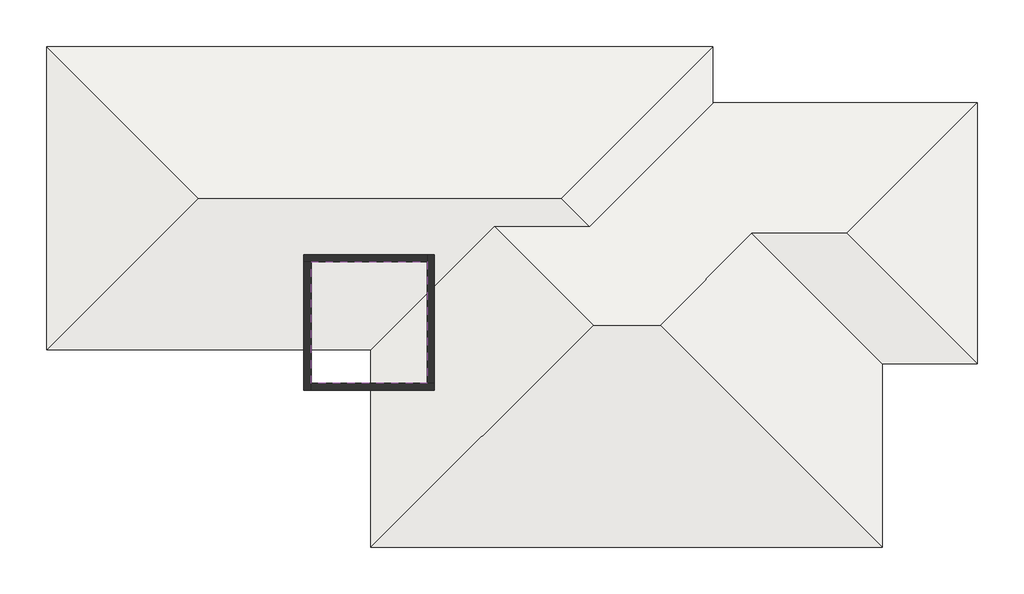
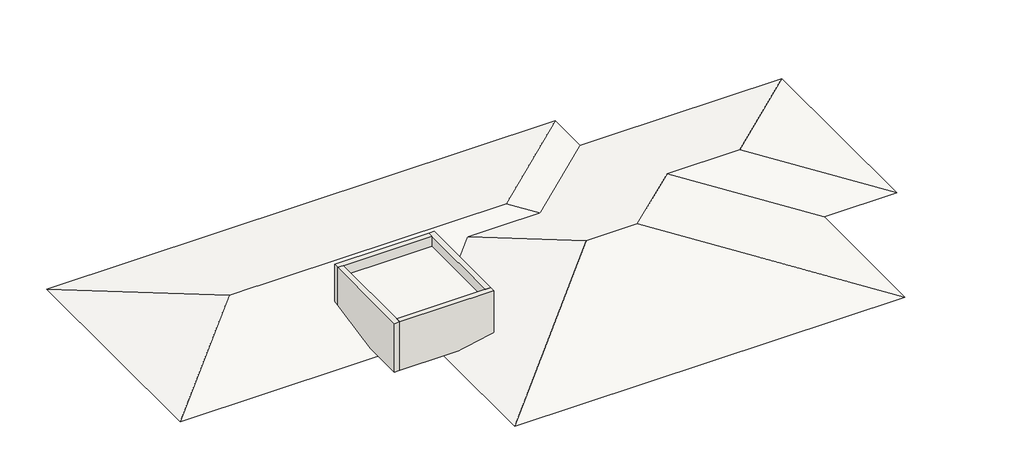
# One storey: 4 walls, 2 roofs, 1 slab.
"""IFC4 building model written with IfcOpenShell, lengths in millimetres."""

from ifc_helpers import new_model, si_unit, frame, origin, place, context, project, spatial, polyline, outline, extrude, faceted_brep, element, save

model = new_model("IFC4")

# Units and contexts
model_context = context("Model", 3, world=origin())
ifc_project = project(units=[si_unit("LENGTHUNIT", "METRE", prefix="MILLI")], contexts=[model_context])

# Site, building, storey
site = spatial("IfcSite", under=ifc_project)
building = spatial("IfcBuilding", under=site)
storey = spatial("IfcBuildingStorey", under=building, Name="屋面", Elevation=8100.0)

# Roofs
placement = place(None, origin())
element("IfcRoof", 1, ObjectType="常规 - 200mm", at=placement, inside=storey, context=model_context, shape_type="Brep", body=[
    faceted_brep([(8189.2485277, 1658.7788742, 8000.0), (4909.0524305, -1621.4172231, 8656.0392195), (-5390.9475695, -1621.4172231, 8656.0392195), (-8671.1436668, 1658.7788742, 8000.0), (8189.2485277, -4901.6133204, 8000.0), (-8671.1436668, -4901.6133204, 8000.0), (9209.0524305, 2678.5827769, 8000.0), (-9690.9475695, 2678.5827769, 8000.0), (-5390.9475695, -1621.4172231, 8860.0), (4909.0524305, -1621.4172231, 8860.0), (9209.0524305, -5921.4172231, 8000.0), (-9690.9475695, -5921.4172231, 8000.0)], [[[0, 1, 2, 3]], [[1, 0, 4]], [[3, 2, 5]], [[5, 2, 1, 4]], [[6, 7, 8, 9]], [[6, 9, 10]], [[7, 11, 8]], [[11, 10, 9, 8]], [[6, 10, 11, 7], [0, 3, 5, 4]]]),
])
element("IfcRoof", 2, ObjectType="常规 - 200mm", at=placement, inside=storey, context=model_context, shape_type="Brep", body=[
    faceted_brep([(5809.0524305, -5221.4172231, 9056.0391714), (528.8503238, -10501.6193298, 7999.9922781), (528.8503238, 58.7848836, 7999.9922781), (7709.0524305, -5221.4172231, 9056.0391714), (12989.2545372, -10501.6193298, 7999.9922781), (10309.0524305, -2621.4172231, 8536.0359846), (12989.2545372, -5301.6193298, 7999.9922781), (15689.2545372, -5301.6193298, 7999.9922781), (13009.0524305, -2621.4172231, 8536.0359846), (15689.2545372, 58.7848836, 7999.9922781), (-490.9475695, -11521.4172231, 7999.9922781), (5809.0524305, -5221.4172231, 9260.0), (-490.9475695, 1078.5827769, 7999.9922781), (14009.0524305, -11521.4172231, 7999.9922781), (7709.0524305, -5221.4172231, 9260.0), (14009.0524305, -6321.4172231, 7999.9922781), (10309.0524305, -2621.4172231, 8739.9968132), (16709.0524305, -6321.4172231, 7999.9922781), (13009.0524305, -2621.4172231, 8739.9968132), (16709.0524305, 1078.5827769, 7999.9922781)], [[[0, 1, 2]], [[1, 0, 3, 4]], [[4, 3, 5, 6]], [[7, 6, 5, 8]], [[7, 8, 9]], [[9, 8, 5, 3, 0, 2]], [[10, 11, 12]], [[10, 13, 14, 11]], [[13, 15, 16, 14]], [[15, 17, 18, 16]], [[17, 19, 18]], [[19, 12, 11, 14, 16, 18]], [[10, 12, 19, 17, 15, 13], [1, 4, 6, 7, 9, 2]]]),
])

# Slab
element("IfcSlab", 3, ObjectType="楼板", at=placement, inside=storey, context=model_context, shape_type="SweptSolid", body=[
    extrude(outline(polyline([(1109.0524305, -3421.4172231), (1109.0524305, -6871.4172231), (-2190.9475695, -6871.4172231), (-2190.9475695, -3421.4172231), (1109.0524305, -3421.4172231)])), frame((0.0, 0.0, 9450.0), z_axis=(0.0, 0.0, 1.0), x_axis=(1.0, 0.0, 0.0)), (0.0, 0.0, 1.0), 150.0),
])

# Walls
element("IfcWall", 4, ObjectType="外墙", at=placement, inside=storey, context=model_context, shape_type="Brep", body=[
    faceted_brep([(-2390.9475695, -3421.4172231, 8100.0), (-2190.9475695, -3421.4172231, 8100.0), (1109.0524305, -3421.4172231, 8100.0), (1109.0524305, -3421.4172231, 10000.0), (-2190.9475695, -3421.4172231, 10000.0), (-2390.9475695, -3421.4172231, 10000.0), (-2390.9475695, -3221.4172231, 8100.0), (-2390.9475695, -3221.4172231, 10000.0), (1109.0524305, -3221.4172231, 10000.0), (1109.0524305, -3221.4172231, 8100.0)], [[[0, 1, 2, 3, 4, 5]], [[6, 7, 8, 9]], [[2, 1, 0, 6, 9]], [[5, 4, 3, 8, 7]], [[0, 5, 7, 6]], [[3, 2, 9, 8]]]),
])
element("IfcWall", 5, ObjectType="外墙", at=placement, inside=storey, context=model_context, shape_type="Brep", body=[
    faceted_brep([(-2190.9475695, -7071.4172231, 8100.0), (-2190.9475695, -6871.4172231, 8100.0), (-2190.9475695, -3421.4172231, 8100.0), (-2190.9475695, -3421.4172231, 10000.0), (-2190.9475695, -6871.4172231, 10000.0), (-2190.9475695, -7071.4172231, 10000.0), (-2390.9475695, -7071.4172231, 8100.0), (-2390.9475695, -7071.4172231, 10000.0), (-2390.9475695, -3421.4172231, 10000.0), (-2390.9475695, -3421.4172231, 8100.0)], [[[0, 1, 2, 3, 4, 5]], [[6, 7, 8, 9]], [[2, 1, 0, 6, 9]], [[5, 4, 3, 8, 7]], [[0, 5, 7, 6]], [[3, 2, 9, 8]]]),
])
element("IfcWall", 6, ObjectType="外墙", at=placement, inside=storey, context=model_context, shape_type="Brep", body=[
    faceted_brep([(1309.0524305, -6871.4172231, 8100.0), (1109.0524305, -6871.4172231, 8100.0), (-2190.9475695, -6871.4172231, 8100.0), (-2190.9475695, -6871.4172231, 10000.0), (1109.0524305, -6871.4172231, 10000.0), (1309.0524305, -6871.4172231, 10000.0), (1309.0524305, -7071.4172231, 8100.0), (1309.0524305, -7071.4172231, 10000.0), (-2190.9475695, -7071.4172231, 10000.0), (-2190.9475695, -7071.4172231, 8100.0)], [[[0, 1, 2, 3, 4, 5]], [[6, 7, 8, 9]], [[2, 1, 0, 6, 9]], [[5, 4, 3, 8, 7]], [[0, 5, 7, 6]], [[3, 2, 9, 8]]]),
])
element("IfcWall", 7, ObjectType="外墙", at=placement, inside=storey, context=model_context, shape_type="Brep", body=[
    faceted_brep([(1109.0524305, -3221.4172231, 8100.0), (1109.0524305, -3421.4172231, 8100.0), (1109.0524305, -6871.4172231, 8100.0), (1109.0524305, -6871.4172231, 10000.0), (1109.0524305, -3421.4172231, 10000.0), (1109.0524305, -3221.4172231, 10000.0), (1309.0524305, -3221.4172231, 8100.0), (1309.0524305, -3221.4172231, 10000.0), (1309.0524305, -6871.4172231, 10000.0), (1309.0524305, -6871.4172231, 8100.0)], [[[0, 1, 2, 3, 4, 5]], [[6, 7, 8, 9]], [[2, 1, 0, 6, 9]], [[5, 4, 3, 8, 7]], [[0, 5, 7, 6]], [[3, 2, 9, 8]]]),
])

save(model, "model.ifc")
